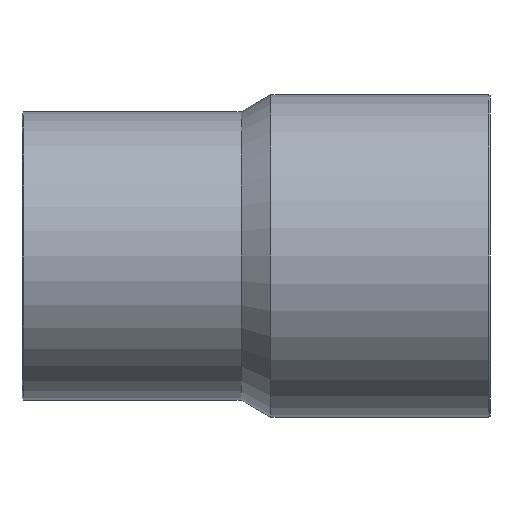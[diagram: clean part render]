
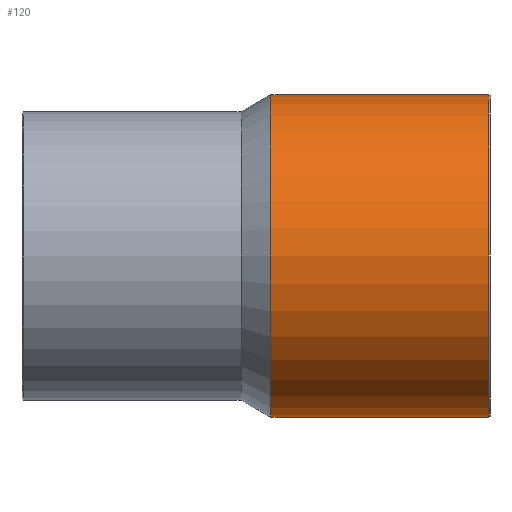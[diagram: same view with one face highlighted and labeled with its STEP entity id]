
A CAD part, front view. The second image highlights one B-rep face of the part: STEP entity #120.
In plain terms, the highlighted cylindrical face has radius 70 mm (diameter 140 mm), a full revolution.
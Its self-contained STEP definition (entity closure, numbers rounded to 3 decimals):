
#26=ORIENTED_EDGE('',*,*,#46,.T.);
#27=ORIENTED_EDGE('',*,*,#47,.F.);
#46=EDGE_CURVE('',#56,#56,#66,.T.);
#47=EDGE_CURVE('',#57,#57,#67,.T.);
#56=VERTEX_POINT('',#208);
#57=VERTEX_POINT('',#210);
#66=CIRCLE('',#144,70.);
#67=CIRCLE('',#145,70.);
#76=EDGE_LOOP('',(#26));
#77=EDGE_LOOP('',(#27));
#96=FACE_BOUND('',#76,.T.);
#97=FACE_BOUND('',#77,.T.);
#116=CYLINDRICAL_SURFACE('',#143,70.);
#120=ADVANCED_FACE('',(#96,#97),#116,.T.);
#143=AXIS2_PLACEMENT_3D('',#206,#165,#166);
#144=AXIS2_PLACEMENT_3D('',#207,#167,#168);
#145=AXIS2_PLACEMENT_3D('',#209,#169,#170);
#165=DIRECTION('',(-1.,0.,0.));
#166=DIRECTION('',(0.,0.,1.));
#167=DIRECTION('',(-1.,0.,0.));
#168=DIRECTION('',(0.,0.,1.));
#169=DIRECTION('',(-1.,0.,0.));
#170=DIRECTION('',(0.,0.,1.));
#206=CARTESIAN_POINT('',(-60.,0.,0.));
#207=CARTESIAN_POINT('',(101.,0.,0.));
#208=CARTESIAN_POINT('',(101.,0.,70.));
#209=CARTESIAN_POINT('',(6.5,0.,0.));
#210=CARTESIAN_POINT('',(6.5,0.,70.));
